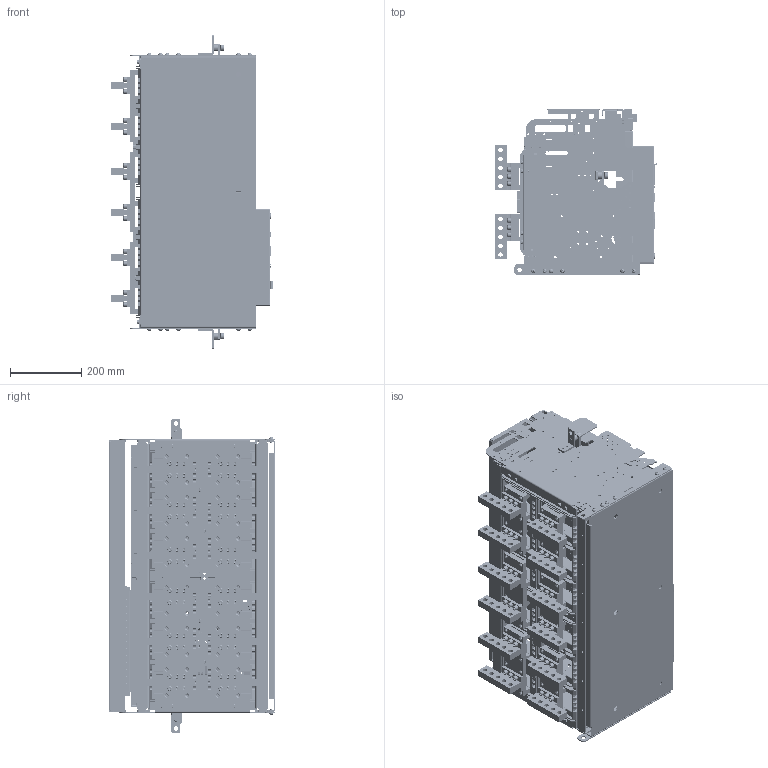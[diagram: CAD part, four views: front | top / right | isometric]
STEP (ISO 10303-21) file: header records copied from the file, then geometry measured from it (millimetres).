
FILE_DESCRIPTION((''),'2;1');
FILE_NAME('D403V_ASM','2017-02-01T',('HHI'),(''),'PRO/ENGINEER BY PARAMETRIC TECHNOLOGY CORPORATION, 2012453','PRO/ENGINEER BY PARAMETRIC TECHNOLOGY CORPORATION, 2012453','');
FILE_SCHEMA(('CONFIG_CONTROL_DESIGN'));
Products named in the file (53): 3AT-03371; 1AT-00887S02_ASM; 3AT-04942; ACB_P_PH_SCREW_M6_L12_SW; 3AT-03372; 1AT-00888S02_ASM; 3AT-04944; CONTROL_JACK_FOR_CRADLE; 9239000363_ASM; 1AT-00880S07_ASM; 3AT-05053; 4AT-06870; 3AT-05054_ASM; 1AT-00751_AF0; HEX_NUT_M6; 1AT-01050_ASM; 3AT-05055; 3AT-05056_ASM; ACB_HEX_BOLT_M6_18_SW; 3AT-05062; 3AT-05057; 3AT-05290_ASM; 3AT-05058; 3AT-05291_ASM; 3AT-05063S01; ACB_HEX_BOLT_M8_L20_SW; U_ARC_SHIELD_633; SC-FIX-BLOCK-L; FIX_BODY_EXTRA; FIX_BLOCK_CRADLE; BOLT; FIX_BODY_ASM_L_ASM; SC-FIX-BLOCK-R; SC-FIX-BLOCK-SUP-R; FIX_BODY_ASM_R_ASM; SC_CONTROL_JACK; SC_MAIN_FRONT_COVER40_2011_1215; SC_DR_DEVICE_COVER2; SC_DR_LOCK_PUSH_BUTTON; SC_MANUAL_POSITION_LOCK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
Assembly tree (222 placements, depth 5):
  D403V_ASM
    1AT-00887S02_ASM
      3AT-03371
    3AT-04942
    ACB_P_PH_SCREW_M6_L12_SW  x12
    1AT-00888S02_ASM
      3AT-03372
    1AT-00880S07_ASM
      3AT-04944
      9239000363_ASM
        CONTROL_JACK_FOR_CRADLE
    3AT-05054_ASM
      3AT-05053
      4AT-06870  x8
    1AT-01050_ASM  x2
      1AT-00751_AF0
      HEX_NUT_M6
    3AT-05056_ASM
      3AT-05055
      4AT-06870  x6
    ACB_HEX_BOLT_M6_18_SW  x8
    3AT-05062  x24
    3AT-05290_ASM  x4
      3AT-05057
    3AT-05291_ASM  x2
      3AT-05058
    3AT-05063S01  x12
    ACB_HEX_BOLT_M8_L20_SW  x72
    U_ARC_SHIELD_633
    FIX_BODY_ASM_L_ASM
      SC-FIX-BLOCK-L
      FIX_BODY_EXTRA
      FIX_BLOCK_CRADLE
      BOLT
    FIX_BODY_ASM_R_ASM
      SC-FIX-BLOCK-R
      SC-FIX-BLOCK-SUP-R
      FIX_BLOCK_CRADLE
      BOLT
    COVER_633_ASM
      COVER403_ASSY_ASM
        SC_CONTROL_JACK
        SC_MAIN_FRONT_COVER40_2011_1215
        DR_COVER_SAMPLE_ASM
          SC_DR_DEVICE_COVER2
          SC_DR_LOCK_PUSH_BUTTON
          SC_MANUAL_POSITION_LOCK
          SC-DR-INDICATOR_SAMPLE
        OCR_COVER_SAMPLE_ASM
          MAIN_SC-OCR-COVER-U-DD-RE
          MAIN_SC-OCR-PROTECTION-COVER-RE
          MAIN_SC-OCR-LOWER-COVER-RE
        SC-CLOSE-BUTTON
        SC-OPEN-BUTTON
        N_CHARGE_HANDLE
      3AT-04830
Bounding box: 453.03 x 466.35 x 878.2 mm (x, y, z)
Volume: 11897001.8 mm3; surface area: 5997187.2 mm2
Topology: 235 solids, 386 shells, 22719 faces, 62906 edges, 40433 vertices
Faces by surface type: plane 15875, cylinder 5017, cone 885, torus 460, extrusion 181, sphere 155, bspline 146
Entity records: 502616 total; most frequent: CARTESIAN_POINT 97794, ORIENTED_EDGE 86850, DIRECTION 79044, EDGE_CURVE 43627, VECTOR 37130, LINE 36949, VERTEX_POINT 28537, AXIS2_PLACEMENT_3D 20957
